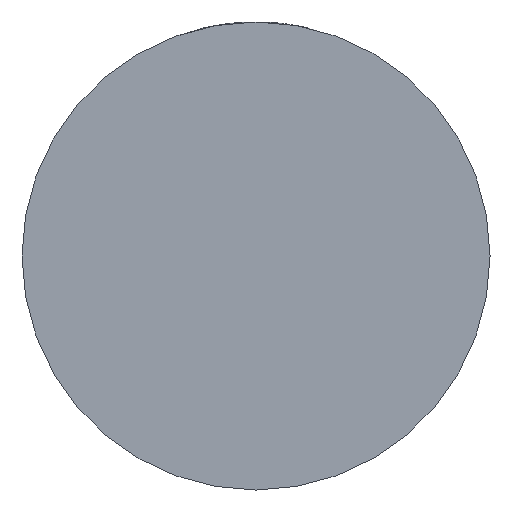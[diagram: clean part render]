
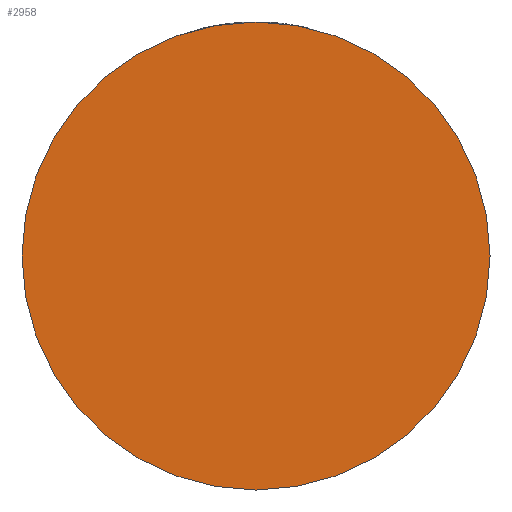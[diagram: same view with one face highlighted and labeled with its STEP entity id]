
A CAD part, front view. The second image highlights one B-rep face of the part: STEP entity #2958.
In plain terms, the highlighted planar face has unit normal (0, -1, 0).
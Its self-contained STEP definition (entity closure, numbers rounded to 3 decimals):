
#97 = EDGE_CURVE ( 'NONE', #3706, #4197, #249, .T. ) ;
#229 = CARTESIAN_POINT ( 'NONE',  ( 0., -28., 0. ) ) ;
#249 = CIRCLE ( 'NONE', #1019, 40. ) ;
#343 = DIRECTION ( 'NONE',  ( 1., 0., 0. ) ) ;
#723 = DIRECTION ( 'NONE',  ( 0., -1., 0. ) ) ;
#1019 = AXIS2_PLACEMENT_3D ( 'NONE', #3678, #1665, #343 ) ;
#1032 = CIRCLE ( 'NONE', #1950, 40. ) ;
#1479 = CARTESIAN_POINT ( 'NONE',  ( 40., -28., 0. ) ) ;
#1665 = DIRECTION ( 'NONE',  ( 0., -1., 0. ) ) ;
#1839 = DIRECTION ( 'NONE',  ( 1., 0., 0. ) ) ;
#1950 = AXIS2_PLACEMENT_3D ( 'NONE', #229, #2239, #3977 ) ;
#2063 = EDGE_CURVE ( 'NONE', #4197, #3706, #1032, .T. ) ;
#2081 = CARTESIAN_POINT ( 'NONE',  ( -40., -28., 0. ) ) ;
#2114 = PLANE ( 'NONE',  #3233 ) ;
#2239 = DIRECTION ( 'NONE',  ( 0., -1., 0. ) ) ;
#2643 = ORIENTED_EDGE ( 'NONE', *, *, #97, .T. ) ;
#2831 = FACE_OUTER_BOUND ( 'NONE', #2918, .T. ) ;
#2918 = EDGE_LOOP ( 'NONE', ( #2643, #4193 ) ) ;
#2958 = ADVANCED_FACE ( 'NONE', ( #2831 ), #2114, .T. ) ;
#3233 = AXIS2_PLACEMENT_3D ( 'NONE', #3474, #723, #1839 ) ;
#3474 = CARTESIAN_POINT ( 'NONE',  ( 0., -28., 0. ) ) ;
#3678 = CARTESIAN_POINT ( 'NONE',  ( 0., -28., 0. ) ) ;
#3706 = VERTEX_POINT ( 'NONE', #2081 ) ;
#3977 = DIRECTION ( 'NONE',  ( 1., 0., 0. ) ) ;
#4193 = ORIENTED_EDGE ( 'NONE', *, *, #2063, .T. ) ;
#4197 = VERTEX_POINT ( 'NONE', #1479 ) ;
